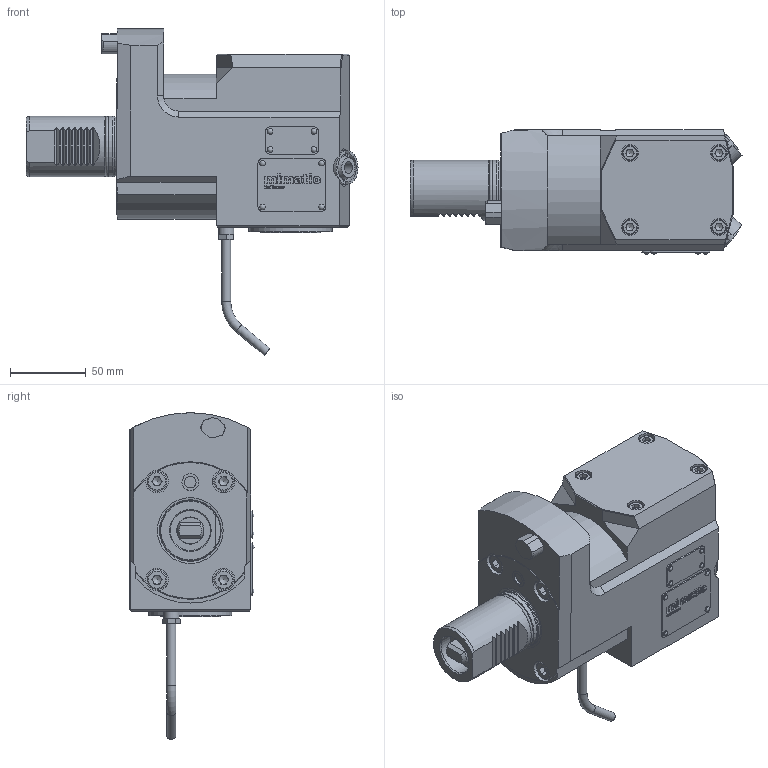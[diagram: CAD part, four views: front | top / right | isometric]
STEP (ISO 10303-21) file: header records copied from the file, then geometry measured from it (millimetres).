
FILE_DESCRIPTION(/* description */ (''),/* implementation_level */ '2;1');
FILE_NAME(/* name */ '201122-UNI',/* time_stamp */ '2023-05-11T08:58:05+02:00',/* author */ (''),/* organization */ (''),/* preprocessor_version */ 'ST-DEVELOPER v16.5',/* originating_system */ 'HiCAD 2017 2201.0 Build 268',/* authorisation */ '');
FILE_SCHEMA (('AUTOMOTIVE_DESIGN { 1 0 10303 214 1 1 1 1 }'));
Products named in the file (2): Root; Teil
Assembly tree (1 placements, depth 2):
  Root
    Teil
Bounding box: 219.69 x 82.35 x 216.17 mm (x, y, z)
Volume: 1331812.6 mm3; surface area: 107843.8 mm2
Topology: 1 solids, 10 shells, 843 faces, 2137 edges, 1386 vertices
Faces by surface type: plane 526, cylinder 149, cone 73, torus 45, bspline 42, sphere 8
Full cylindrical faces by diameter (mm): 2 x8, 2.2 x8, 4 x2, 6 x2, 7.65 x1, 8.1 x2, 10 x5, 11 x4, 11.01 x1, 13 x4, 15 x6, 17.8 x2, 18 x2, 22.5 x2, 25 x2, 26.5 x1, 31.5 x1, 36.5 x1, 39.4 x1, 40 x3, 55 x2
Entity records: 49118 total; most frequent: CARTESIAN_POINT 9808, DIRECTION 4039, PRESENTATION_STYLE_ASSIGNMENT 3977, DRAUGHTING_PRE_DEFINED_CURVE_FONT 3976, CURVE_STYLE 3976, OVER_RIDING_STYLED_ITEM 3976, ORIENTED_EDGE 3976, COLOUR_RGB 3922
